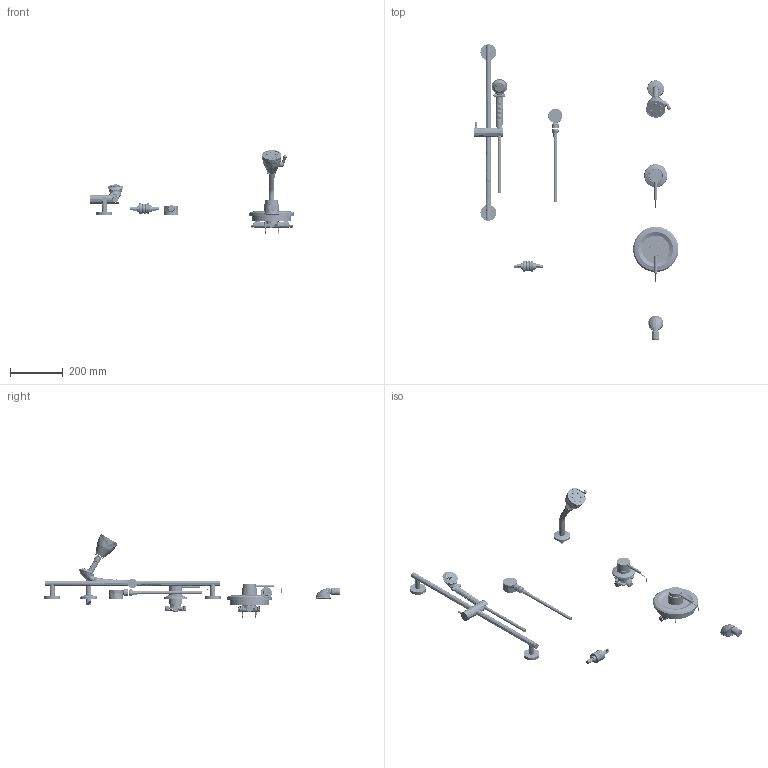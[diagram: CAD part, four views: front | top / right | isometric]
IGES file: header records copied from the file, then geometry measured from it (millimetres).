
Start section:  PTC IGES file: sh-pb5-31-031_sw0001.igs
Global section: file name: sh-pb5-31-031_sw0001.igs; native system: Creo Parametric by PTC Inc.; preprocessor: 2021184; author: rodjo; organization: Unknown; date: 20240307.120250; units: inch
Bounding box: 776.85 x 1121.26 x 318.2 mm (x, y, z)
Surface area: 476119.3 mm2 (no closed solid volume)
Topology: 0 solids, 0 shells, 1618 faces, 13247 edges, 17917 vertices
Faces by surface type: revolution 1247, bspline 371
